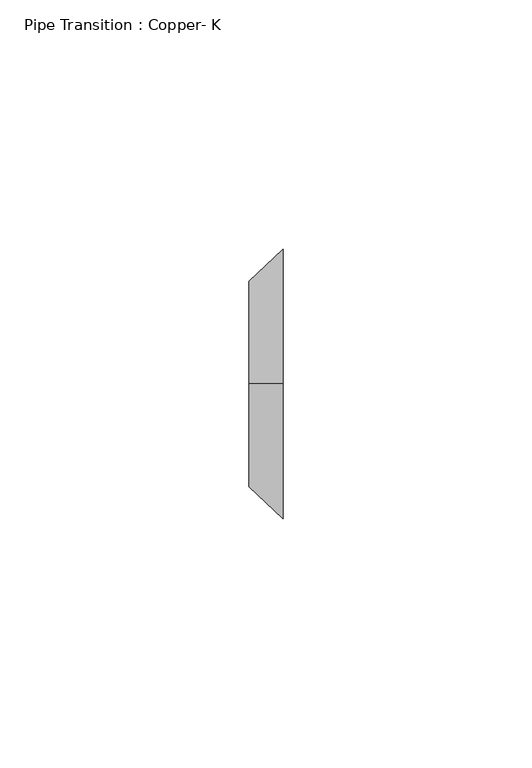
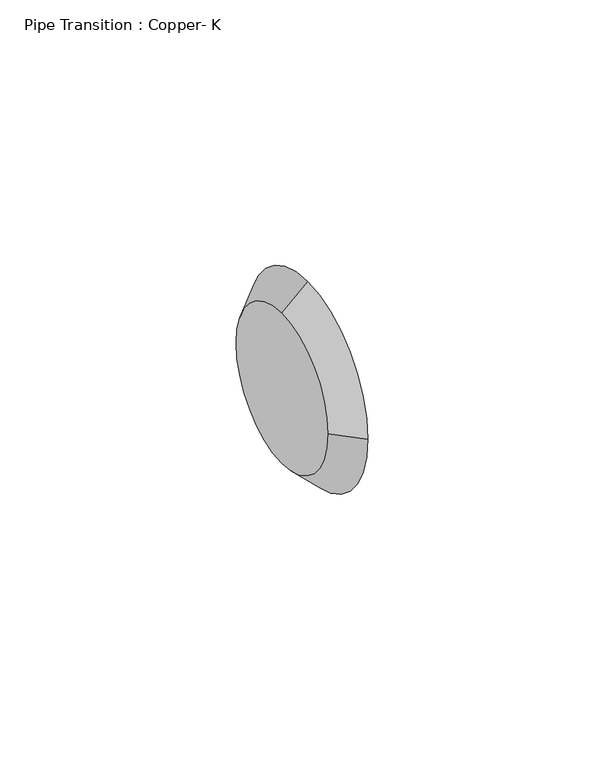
"""IFC4 building model written with IfcOpenShell, lengths in millimetres: pipe fitting geometry, Pipe Transition : Copper- K."""

import ifcopenshell
import ifcopenshell.guid

model = None  # the IFC model being written
_history = None  # IfcOwnerHistory: only IFC2X3 demands one
_inside = {}  # id of a spatial element -> (the spatial element, [elements in it])
_under = {}  # id of a project, library or spatial element -> (it, [spatial elements below it])
_declared = {}  # id of a project -> (the project, [libraries it declares])
_typed = {}  # id of a type object -> (the type object, [elements of that type])
_made_of = {}  # id of a material, layer set ... -> (it, [elements and type objects made of it])


def new_model(schema):
    """Start an empty IFC model of exactly this schema.

    Asked for "IFC4X3", IfcOpenShell would pick the latest addendum, in which some entities
    have other attributes; the version numbers below select the first issue.
    IFC2X3 requires an IfcOwnerHistory on every rooted entity: one is made here for all.
    """
    global model, _history
    if schema == "IFC4X3":
        model = ifcopenshell.file(schema_version=(4, 3, 0, 0))
    else:
        model = ifcopenshell.file(schema=schema)
    _inside.clear()
    _under.clear()
    _declared.clear()
    _typed.clear()
    _made_of.clear()
    _history = None
    if model.schema == "IFC2X3":
        org = make("IfcOrganization", Name="unknown")
        user = make(
            "IfcPersonAndOrganization",
            ThePerson=make("IfcPerson", FamilyName="unknown"),
            TheOrganization=org,
        )
        app = make(
            "IfcApplication",
            ApplicationDeveloper=org,
            Version="unknown",
            ApplicationFullName="unknown",
            ApplicationIdentifier="unknown",
        )
        _history = make(
            "IfcOwnerHistory",
            OwningUser=user,
            OwningApplication=app,
            ChangeAction="ADDED",
            CreationDate=0,
        )
    return model


def make(cls, **values):
    """One entity of the class cls with the attributes given. An attribute that is None is left unset."""
    return model.create_entity(
        cls, **{name: value for name, value in values.items() if value is not None}
    )


def rooted(cls, **values):
    """An entity with a GlobalId (a new one), such as an element, a storey or a relation."""
    return make(cls, GlobalId=ifcopenshell.guid.new(), OwnerHistory=_history, **values)


def si_unit(unit_type, name, prefix=None):
    """IfcSIUnit, for example si_unit("LENGTHUNIT", "METRE", prefix="MILLI")."""
    return make("IfcSIUnit", UnitType=unit_type, Prefix=prefix, Name=name)


def assignment(units):
    """IfcUnitAssignment: the units of a project."""
    return None if units is None else make("IfcUnitAssignment", Units=units)


def point(xyz):
    """IfcCartesianPoint."""
    return None if xyz is None else make("IfcCartesianPoint", Coordinates=xyz)


def direction(xyz):
    """IfcDirection."""
    return None if xyz is None else make("IfcDirection", DirectionRatios=xyz)


def frame(location, z_axis=None, x_axis=None):
    """IfcAxis2Placement3D, a coordinate frame: its origin and axes. An axis left out is left unset."""
    return make(
        "IfcAxis2Placement3D",
        Location=point(location),
        Axis=direction(z_axis),
        RefDirection=direction(x_axis),
    )


def origin():
    """The frame at (0, 0, 0) with its axes left unset."""
    return frame((0.0, 0.0, 0.0))


def place(relative_to, where):
    """IfcLocalPlacement: puts the frame where relative to a parent placement (None: the world)."""
    return make(
        "IfcLocalPlacement", PlacementRelTo=relative_to, RelativePlacement=where
    )


def context(
    kind, dimensions, precision=None, world=None, true_north=None, identifier=None
):
    """IfcGeometricRepresentationContext, for example the 3D "Model" context."""
    return make(
        "IfcGeometricRepresentationContext",
        ContextIdentifier=identifier,
        ContextType=kind,
        CoordinateSpaceDimension=dimensions,
        Precision=precision,
        WorldCoordinateSystem=world,
        TrueNorth=true_north,
    )


def project(units=None, contexts=None):
    """IfcProject with its units and contexts."""
    return rooted(
        "IfcProject",
        Name="project",
        RepresentationContexts=contexts,
        UnitsInContext=assignment(units),
    )


def spatial(cls, under=None, at=None, **own):
    """A site, building, storey or space (cls), placed at a placement, below another one or the project."""
    s = rooted(cls, ObjectPlacement=at, **own)
    if under is not None:
        _under.setdefault(under.id(), (under, []))[1].append(s)
    return s


def polyline(points):
    """IfcPolyline through the points."""
    return make("IfcPolyline", Points=[point(p) for p in points])


def circle_curve(where, radius):
    """IfcCircle in the frame where."""
    return make("IfcCircle", Position=where, Radius=radius)


def shape(context_of_items, identifier, shape_type, items):
    """IfcShapeRepresentation: the items that make up one representation, for example the "Body"."""
    return make(
        "IfcShapeRepresentation",
        ContextOfItems=context_of_items,
        RepresentationIdentifier=identifier,
        RepresentationType=shape_type,
        Items=items,
    )


def source(mapping_origin, context_of_items, identifier, shape_type, items):
    """IfcRepresentationMap: a shape defined once, which mapped items show again and again."""
    return make(
        "IfcRepresentationMap",
        MappingOrigin=mapping_origin,
        MappedRepresentation=shape(context_of_items, identifier, shape_type, items),
    )


def transform(
    local_origin,
    x_axis=None,
    y_axis=None,
    z_axis=None,
    scale=None,
    scale2=None,
    scale3=None,
    uniform=True,
):
    """IfcCartesianTransformationOperator3D, or its non-uniform kind. x_axis, y_axis, z_axis: its Axis1, 2, 3."""
    if uniform:
        return make(
            "IfcCartesianTransformationOperator3D",
            Axis1=direction(x_axis),
            Axis2=direction(y_axis),
            LocalOrigin=point(local_origin),
            Scale=scale,
            Axis3=direction(z_axis),
        )
    return make(
        "IfcCartesianTransformationOperator3DnonUniform",
        Axis1=direction(x_axis),
        Axis2=direction(y_axis),
        LocalOrigin=point(local_origin),
        Scale=scale,
        Axis3=direction(z_axis),
        Scale2=scale2,
        Scale3=scale3,
    )


def mapped(mapping_source, mapping_target):
    """IfcMappedItem: shows the shape of a source again, moved by a transform."""
    return make(
        "IfcMappedItem", MappingSource=mapping_source, MappingTarget=mapping_target
    )


def made_of(thing, what):
    """Note that an element or type object is made of a material, layer set ...; save() writes the relation."""
    if what is not None:
        _made_of.setdefault(what.id(), (what, []))[1].append(thing)
    return thing


def element(
    cls,
    number,
    at=None,
    inside=None,
    cuts=None,
    type_object=None,
    material=None,
    context=None,
    identifier="Body",
    shape_type=None,
    held_by="IfcProductDefinitionShape",
    body=None,
    shapes=None,
    **own,
):
    """One element of the class cls, such as IfcWall. Its Tag is "e" and its number.

    at: its placement. inside: the storey or other place that contains it. cuts: it is an
    opening in that element (IfcRelVoidsElement). A single representation is given by context,
    identifier, shape_type and body (its items); several are given by shapes. held_by: the class
    of the entity that holds the representations. save() writes the other relations.
    """
    e = rooted(cls, Tag="e%d" % number, ObjectPlacement=at, **own)
    if body is not None:
        shapes = [shape(context, identifier, shape_type, body)]
    if shapes is not None:
        e.Representation = make(held_by, Representations=shapes)
    if inside is not None:
        _inside.setdefault(inside.id(), (inside, []))[1].append(e)
    if cuts is not None:
        rooted(
            "IfcRelVoidsElement", RelatingBuildingElement=cuts, RelatedOpeningElement=e
        )
    if type_object is not None:
        _typed.setdefault(type_object.id(), (type_object, []))[1].append(e)
    return made_of(e, material)


def aggregate(whole, parts):
    """IfcRelAggregates: a whole, such as a stair, and the parts it consists of."""
    return rooted("IfcRelAggregates", RelatingObject=whole, RelatedObjects=parts)


def save(model, path):
    """Write the relations noted so far, then the file.

    IfcRelAggregates (storeys below a building ...), IfcRelContainedInSpatialStructure (elements
    in a storey), IfcRelDefinesByType, IfcRelAssociatesMaterial and IfcRelDeclares: one each for
    every whole, place, type object, material and project.
    """
    for whole, parts in _under.values():
        aggregate(whole, parts)
    for where, things in _inside.values():
        rooted(
            "IfcRelContainedInSpatialStructure",
            RelatedElements=things,
            RelatingStructure=where,
        )
    for kind, things in _typed.values():
        rooted("IfcRelDefinesByType", RelatedObjects=things, RelatingType=kind)
    for what, things in _made_of.values():
        rooted("IfcRelAssociatesMaterial", RelatedObjects=things, RelatingMaterial=what)
    for by, libraries in _declared.values():
        rooted("IfcRelDeclares", RelatingContext=by, RelatedDefinitions=libraries)
    model.write(path)


def plane_surface(at):
    """IfcPlane: the flat surface through the origin of the frame at, square to its z axis."""
    return make("IfcPlane", Position=at)


def revolved_surface(curve, axis_point, axis_direction):
    """IfcSurfaceOfRevolution: the curve turned about the line through axis_point along axis_direction."""
    return make(
        "IfcSurfaceOfRevolution",
        SweptCurve=make("IfcArbitraryOpenProfileDef", ProfileType="CURVE", Curve=curve),
        AxisPosition=make("IfcAxis1Placement", Location=point(axis_point), Axis=direction(axis_direction)),
    )


def advanced_brep(points, edges, surfaces, faces):
    """IfcAdvancedBrep: a solid bounded by faces that lie on surfaces and meet in shared edges.

    An edge is (start, end): straight between two places in points (the first is 0);
    or (start, end, curve); or (start, end, curve, False) where it runs against its curve.
    A face is (place in surfaces, loops), or (place, loops, False) where it looks against
    its surface's normal. A loop lists edges by number (the first is 1), with a minus sign
    where the edge is run from its end to its start. The first loop is the outer one.
    """
    corners = [point(p) for p in points]
    vertices = [make("IfcVertexPoint", VertexGeometry=c) for c in corners]
    made = []
    for start, end, *more in edges:
        made.append(
            make(
                "IfcEdgeCurve",
                EdgeStart=vertices[start],
                EdgeEnd=vertices[end],
                EdgeGeometry=more[0] if more else make("IfcPolyline", Points=[corners[start], corners[end]]),
                SameSense=more[1] if len(more) > 1 else True,
            )
        )
    hull = []
    for where, loops, *sense in faces:
        bounds = []
        for j, loop in enumerate(loops):
            ring = [make("IfcOrientedEdge", EdgeElement=made[abs(k) - 1], Orientation=k > 0) for k in loop]
            bounds.append(
                make(
                    "IfcFaceOuterBound" if j == 0 else "IfcFaceBound",
                    Bound=make("IfcEdgeLoop", EdgeList=ring),
                    Orientation=True,
                )
            )
        hull.append(make("IfcAdvancedFace", Bounds=bounds, FaceSurface=surfaces[where], SameSense=sense[0] if sense else True))
    return make("IfcAdvancedBrep", Outer=make("IfcClosedShell", CfsFaces=hull))


def pipe_transition_copper_k_c7248b3c(model_context):
    return source(origin(), model_context, "Body", "AdvancedBrep", [
        advanced_brep(
        [(6.746875, 0.0, 26.9875), (6.746875, -26.9875, 0.0), (6.746875, 0.0, -26.9875), (6.746875, 26.9875, 0.0), (0.0, 0.0, 20.6375), (0.0, 20.6375, 0.0), (0.0, 0.0, -20.6375), (0.0, -20.6375, 0.0)],
        [
            (0, 1, circle_curve(frame((6.746875, 0.0, 0.0), z_axis=(1.0, 0.0, 0.0), x_axis=(0.0, 0.0, 1.0)), 26.9875)),
            (1, 2, circle_curve(frame((6.746875, 0.0, 0.0), z_axis=(1.0, 0.0, 0.0), x_axis=(0.0, -1.0, 0.0)), 26.9875)),
            (2, 3, circle_curve(frame((6.746875, 0.0, 0.0), z_axis=(1.0, 0.0, 0.0), x_axis=(0.0, 0.0, -1.0)), 26.9875)),
            (3, 0, circle_curve(frame((6.746875, 0.0, 0.0), z_axis=(1.0, 0.0, 0.0), x_axis=(0.0, 1.0, 0.0)), 26.9875)),
            (4, 5, circle_curve(frame((0.0, 0.0, 0.0), z_axis=(-1.0, 0.0, 0.0), x_axis=(0.0, 1.0, 0.0)), 20.6375)),
            (5, 6, circle_curve(frame((0.0, 0.0, 0.0), z_axis=(-1.0, 0.0, 0.0), x_axis=(0.0, 0.0, -1.0)), 20.6375)),
            (6, 7, circle_curve(frame((0.0, 0.0, 0.0), z_axis=(-1.0, 0.0, 0.0), x_axis=(0.0, -1.0, 0.0)), 20.6375)),
            (7, 4, circle_curve(frame((0.0, 0.0, 0.0), z_axis=(-1.0, 0.0, 0.0), x_axis=(0.0, 0.0, 1.0)), 20.6375)),
            (7, 1),
            (0, 4),
            (6, 2),
            (5, 3),
        ],
        [
            plane_surface(frame((6.746875, 0.0, 0.0), z_axis=(1.0, 0.0, 0.0), x_axis=(0.0, -1.0, 0.0))),
            plane_surface(frame((0.0, 0.0, 0.0), z_axis=(-1.0, 0.0, 0.0), x_axis=(0.0, -1.0, 0.0))),
            revolved_surface(polyline([(0.0, -20.637499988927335, 0.0), (6.746874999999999, -26.9875, 0.0)]), (-21.9273437, 0.0, 0.0), (1.0, 0.0, 0.0)),
            revolved_surface(polyline([(0.0, 0.0, -20.637499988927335), (6.746874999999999, 0.0, -26.9875)]), (-21.9273437, 0.0, 0.0), (1.0, 0.0, 0.0)),
            revolved_surface(polyline([(0.0, 20.637499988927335, 0.0), (6.746874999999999, 26.9875, 0.0)]), (-21.9273437, 0.0, 0.0), (1.0, 0.0, 0.0)),
            revolved_surface(polyline([(0.0, 0.0, 20.637499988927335), (6.746874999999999, 0.0, 26.9875)]), (-21.9273437, 0.0, 0.0), (1.0, 0.0, 0.0)),
        ],
        [
            (0, [[1, 2, 3, 4]]),
            (1, [[5, 6, 7, 8]]),
            (2, [[-8, 9, -1, 10]]),
            (3, [[-7, 11, -2, -9]]),
            (4, [[-6, 12, -3, -11]]),
            (5, [[-5, -10, -4, -12]]),
        ],
    ),
        advanced_brep(
        [(6.746875, 0.0, 26.9875), (6.746875, -26.9875, 0.0), (6.746875, 0.0, -26.9875), (6.746875, 26.9875, 0.0), (0.0, 0.0, 20.6375), (0.0, 20.6375, 0.0), (0.0, 0.0, -20.6375), (0.0, -20.6375, 0.0)],
        [
            (0, 1, circle_curve(frame((6.746875, 0.0, 0.0), z_axis=(1.0, 0.0, -1.2427890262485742e-12), x_axis=(1.242788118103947e-12, 0.0, 1.0)), 26.9875)),
            (1, 2, circle_curve(frame((6.746875, 0.0, 0.0), z_axis=(1.0, 0.0, -1.1926330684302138e-12), x_axis=(0.0, -1.0, 0.0)), 26.9875)),
            (2, 3, circle_curve(frame((6.746875, 0.0, 0.0), z_axis=(1.0, 0.0, -1.9352791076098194e-12), x_axis=(-1.935295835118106e-12, 0.0, -1.0)), 26.9875)),
            (3, 0, circle_curve(frame((6.746875, 0.0, 0.0), z_axis=(1.0, 0.0, 0.0), x_axis=(0.0, 1.0, 0.0)), 26.9875)),
            (4, 5, circle_curve(frame((0.0, 0.0, 0.0), z_axis=(-1.0, 0.0, 0.0), x_axis=(0.0, 1.0, 0.0)), 20.6375)),
            (5, 6, circle_curve(frame((0.0, 0.0, 0.0), z_axis=(-1.0, 0.0, 1.9352791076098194e-12), x_axis=(-1.935295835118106e-12, 0.0, -1.0)), 20.6375)),
            (6, 7, circle_curve(frame((0.0, 0.0, 0.0), z_axis=(-1.0, 0.0, 1.1926330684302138e-12), x_axis=(0.0, -1.0, 0.0)), 20.6375)),
            (7, 4, circle_curve(frame((0.0, 0.0, 0.0), z_axis=(-1.0, 0.0, 1.2427890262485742e-12), x_axis=(1.242788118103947e-12, 0.0, 1.0)), 20.6375)),
            (7, 1),
            (0, 4),
            (6, 2),
            (5, 3),
        ],
        [
            plane_surface(frame((6.746875, 0.0, 0.0), z_axis=(1.0, 0.0, 0.0), x_axis=(0.0, -1.0, 0.0))),
            plane_surface(frame((0.0, 0.0, 0.0), z_axis=(-1.0, 0.0, 0.0), x_axis=(0.0, -1.0, 0.0))),
            revolved_surface(polyline([(-2.5647040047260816e-11, -20.637499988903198, 0.0), (6.746874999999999, -26.9875, 0.0)]), (-21.9273437, 0.0, 0.0), (1.0, 0.0, -1.2427890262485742e-12)),
            revolved_surface(polyline([(-2.461320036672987e-11, 0.0, -20.63749998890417), (6.746874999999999, 0.0, -26.9875)]), (-21.9273437, 0.0, 0.0), (1.0, 0.0, -1.1926330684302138e-12)),
            revolved_surface(polyline([(0.0, 20.637500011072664, 0.0), (6.746875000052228, 26.987500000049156, 0.0)]), (-21.9273438, 0.0, 0.0), (1.0, 0.0, -1.9352791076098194e-12)),
            revolved_surface(polyline([(0.0, 0.0, 20.637500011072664), (6.746874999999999, 0.0, 26.9875)]), (-21.9273438, 0.0, 0.0), (1.0, 0.0, 0.0)),
        ],
        [
            (0, [[1, 2, 3, 4]]),
            (1, [[5, 6, 7, 8]]),
            (2, [[-8, 9, -1, 10]]),
            (3, [[-7, 11, -2, -9]]),
            (4, [[-6, 12, -3, -11]]),
            (5, [[-5, -10, -4, -12]]),
        ],
    ),
    ])


if __name__ == "__main__":
    model = new_model("IFC4")
    model_context = context("Model", 3, world=origin())
    ifc_project = project(units=[si_unit("LENGTHUNIT", "METRE", prefix="MILLI")], contexts=[model_context])
    site = spatial("IfcSite", under=ifc_project)
    building = spatial("IfcBuilding", under=site)
    placement = place(None, origin())
    pipe_transition_copper_k_shape = pipe_transition_copper_k_c7248b3c(model_context)
    element("IfcPipeFitting", 1, ObjectType="Pipe Transition : Copper- K", at=placement, inside=building, context=model_context, shape_type="MappedRepresentation", body=[
        mapped(pipe_transition_copper_k_shape, transform((0.0, 0.0, 0.0), x_axis=(1.0, 0.0, 0.0), y_axis=(0.0, 1.0, 0.0), z_axis=(0.0, 0.0, 1.0))),
    ])
    save(model, "model.ifc")
